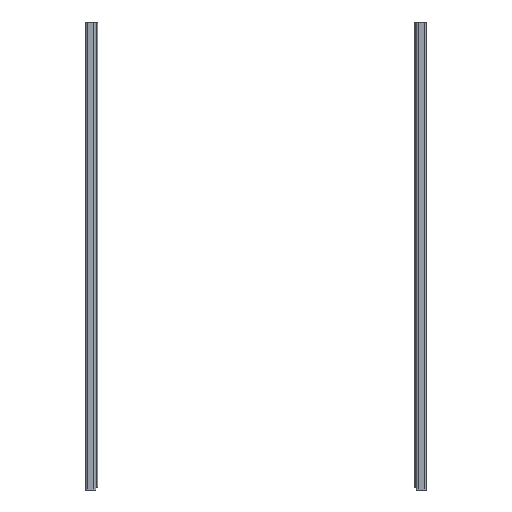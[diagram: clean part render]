
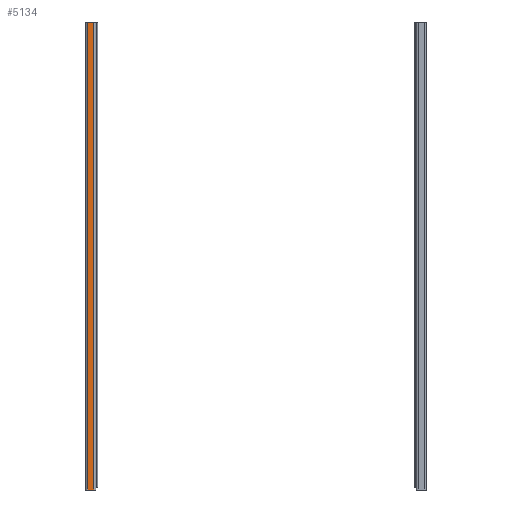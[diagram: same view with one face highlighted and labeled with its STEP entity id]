
A CAD part, front view. The second image highlights one B-rep face of the part: STEP entity #5134.
In plain terms, the highlighted planar face has unit normal (0, -1, 0).
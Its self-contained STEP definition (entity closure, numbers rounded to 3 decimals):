
#203=PLANE('',#5497);
#381=FACE_OUTER_BOUND('',#679,.T.);
#679=EDGE_LOOP('',(#3885,#3886,#3887,#3888));
#965=LINE('',#7700,#1431);
#1086=LINE('',#7969,#1552);
#1087=LINE('',#7973,#1553);
#1088=LINE('',#7974,#1554);
#1431=VECTOR('',#6116,6.8);
#1552=VECTOR('',#6465,500.);
#1553=VECTOR('',#6470,500.);
#1554=VECTOR('',#6471,6.8);
#2231=VERTEX_POINT('',#7697);
#2232=VERTEX_POINT('',#7699);
#2266=VERTEX_POINT('',#7968);
#2267=VERTEX_POINT('',#7972);
#2726=EDGE_CURVE('',#2231,#2232,#965,.T.);
#2856=EDGE_CURVE('',#2266,#2232,#1086,.T.);
#2858=EDGE_CURVE('',#2231,#2267,#1087,.T.);
#2859=EDGE_CURVE('',#2266,#2267,#1088,.T.);
#3885=ORIENTED_EDGE('',*,*,#2856,.T.);
#3886=ORIENTED_EDGE('',*,*,#2726,.F.);
#3887=ORIENTED_EDGE('',*,*,#2858,.T.);
#3888=ORIENTED_EDGE('',*,*,#2859,.F.);
#5134=ADVANCED_FACE('',(#381),#203,.T.);
#5497=AXIS2_PLACEMENT_3D('',#7971,#6468,#6469);
#6116=DIRECTION('',(-1.,0.,0.));
#6465=DIRECTION('',(0.,0.,-1.));
#6468=DIRECTION('center_axis',(0.,-1.,0.));
#6469=DIRECTION('ref_axis',(-1.,0.,0.));
#6470=DIRECTION('',(0.,0.,1.));
#6471=DIRECTION('',(1.,0.,0.));
#7697=CARTESIAN_POINT('',(8.8,-17.4,-500.));
#7699=CARTESIAN_POINT('',(2.,-17.4,-500.));
#7700=CARTESIAN_POINT('',(0.,-17.4,-500.));
#7968=CARTESIAN_POINT('',(2.,-17.4,0.));
#7969=CARTESIAN_POINT('',(2.,-17.4,0.));
#7971=CARTESIAN_POINT('Origin',(10.8,-17.4,0.));
#7972=CARTESIAN_POINT('',(8.8,-17.4,0.));
#7973=CARTESIAN_POINT('',(8.8,-17.4,0.));
#7974=CARTESIAN_POINT('',(0.,-17.4,0.));
